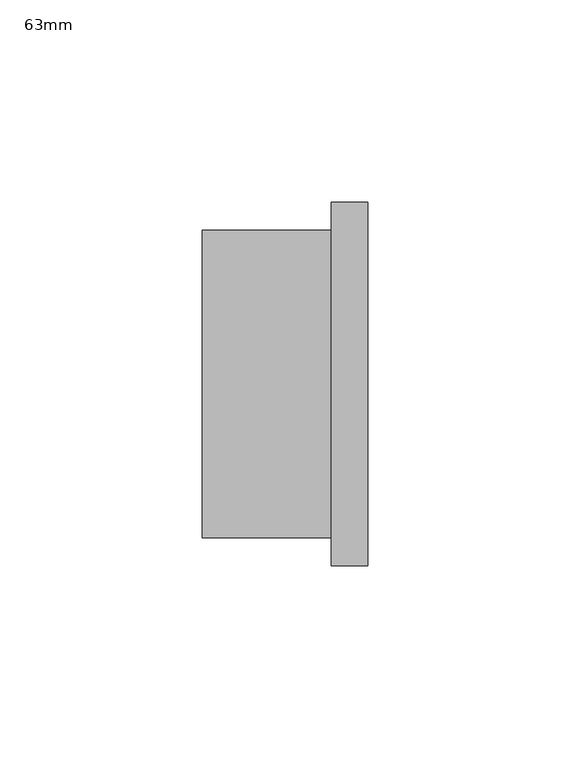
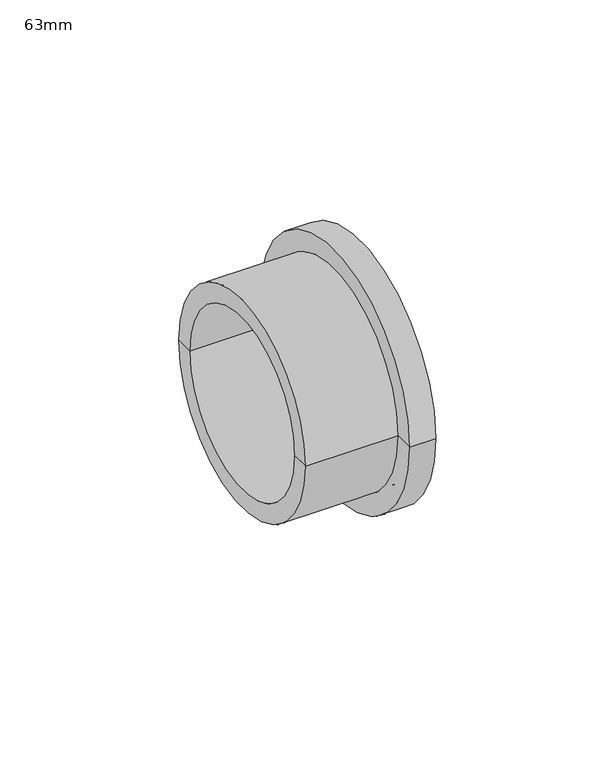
"""IFC4 building model written with IfcOpenShell, lengths in millimetres: pipe fitting geometry, Durapipe_PipeFitting_PVC_StubFlange : 63mm."""

from ifc_helpers import new_model, si_unit, frame, origin, place, context, project, spatial, polyline, circle_curve, source, transform, mapped, element, save
from ifc_brep_helpers import plane_surface, cylinder_surface, revolved_surface, advanced_brep


def pipe_fitting_63mm_d86aa782(model_context):
    return source(origin(), model_context, "Body", "AdvancedBrep", [
        advanced_brep(
        [(20.5, -45.0, 0.0), (20.5, 45.0, 0.0), (20.5, 40.25, 0.0), (20.5, -40.25, 0.0), (20.5, 25.0, 0.0), (20.5, -25.0, 0.0), (20.5, -36.5220779, 0.0), (20.5, 36.5220779, 0.0), (11.5, -45.0, 0.0), (11.5, 45.0, 0.0), (11.5, -38.0, 0.0), (11.5, 38.0, 0.0), (-20.5, -38.0, 0.0), (-20.5, 38.0, 0.0), (-20.5, -31.5, 0.0), (-20.5, 31.5, 0.0), (17.5, 25.0, 0.0), (17.5, -25.0, 0.0), (17.5, -31.5, 0.0), (17.5, 31.5, 0.0), (20.5, 37.7647186, 0.0), (19.0, 37.1433983, 0.0), (19.0, -37.1433983, 0.0), (20.5, -37.7647186, 0.0), (19.0, -38.386039, 0.0), (19.0, 38.386039, 0.0), (20.5, -39.0073593, 0.0), (20.5, 39.0073593, 0.0), (19.0, -39.6286797, 0.0), (19.0, 39.6286797, 0.0)],
        [
            (0, 1, circle_curve(frame((20.5, 0.0, 0.0), z_axis=(1.0, 0.0, 0.0), x_axis=(0.0, 1.0, 0.0)), 45.0)),
            (1, 2),
            (2, 3, circle_curve(frame((20.5, 0.0, 0.0), z_axis=(-1.0, 0.0, 0.0), x_axis=(0.0, -1.0, 0.0)), 40.25)),
            (3, 0),
            (4, 5, circle_curve(frame((20.5, 0.0, 0.0), z_axis=(-1.0, 0.0, 0.0), x_axis=(0.0, 1.0, 0.0)), 25.0)),
            (5, 6),
            (6, 7, circle_curve(frame((20.5, 0.0, 0.0), z_axis=(1.0, 0.0, 0.0), x_axis=(0.0, -1.0, 0.0)), 36.5220779)),
            (7, 4),
            (1, 0, circle_curve(frame((20.5, 0.0, 0.0), z_axis=(1.0, 0.0, 0.0), x_axis=(0.0, 1.0, 0.0)), 45.0)),
            (3, 2, circle_curve(frame((20.5, 0.0, 0.0), z_axis=(-1.0, 0.0, 0.0), x_axis=(0.0, 1.0, 0.0)), 40.25)),
            (5, 4, circle_curve(frame((20.5, 0.0, 0.0), z_axis=(-1.0, 0.0, 0.0), x_axis=(0.0, 1.0, 0.0)), 25.0)),
            (7, 6, circle_curve(frame((20.5, 0.0, 0.0), z_axis=(1.0, 0.0, 0.0), x_axis=(0.0, 1.0, 0.0)), 36.5220779)),
            (0, 8),
            (8, 9, circle_curve(frame((11.5, 0.0, 0.0), z_axis=(1.0, 0.0, 0.0), x_axis=(0.0, 1.0, 0.0)), 45.0)),
            (9, 1),
            (9, 8, circle_curve(frame((11.5, 0.0, 0.0), z_axis=(1.0, 0.0, 0.0), x_axis=(0.0, 1.0, 0.0)), 45.0)),
            (8, 10),
            (10, 11, circle_curve(frame((11.5, 0.0, 0.0), z_axis=(1.0, 0.0, 0.0), x_axis=(0.0, 1.0, 0.0)), 38.0)),
            (11, 9),
            (11, 10, circle_curve(frame((11.5, 0.0, 0.0), z_axis=(1.0, 0.0, 0.0), x_axis=(0.0, 1.0, 0.0)), 38.0)),
            (10, 12),
            (12, 13, circle_curve(frame((-20.5, 0.0, 0.0), z_axis=(1.0, 0.0, 0.0), x_axis=(0.0, 1.0, 0.0)), 38.0)),
            (13, 11),
            (13, 12, circle_curve(frame((-20.5, 0.0, 0.0), z_axis=(1.0, 0.0, 0.0), x_axis=(0.0, 1.0, 0.0)), 38.0)),
            (12, 14),
            (14, 15, circle_curve(frame((-20.5, 0.0, 0.0), z_axis=(1.0, 0.0, 0.0), x_axis=(0.0, 1.0, 0.0)), 31.5)),
            (15, 13),
            (15, 14, circle_curve(frame((-20.5, 0.0, 0.0), z_axis=(1.0, 0.0, 0.0), x_axis=(0.0, 1.0, 0.0)), 31.5)),
            (4, 16),
            (16, 17, circle_curve(frame((17.5, 0.0, 0.0), z_axis=(-1.0, 0.0, 0.0), x_axis=(0.0, 1.0, 0.0)), 25.0)),
            (17, 5),
            (17, 16, circle_curve(frame((17.5, 0.0, 0.0), z_axis=(-1.0, 0.0, 0.0), x_axis=(0.0, 1.0, 0.0)), 25.0)),
            (14, 18),
            (18, 19, circle_curve(frame((17.5, 0.0, 0.0), z_axis=(1.0, 0.0, 0.0), x_axis=(0.0, 1.0, 0.0)), 31.5)),
            (19, 15),
            (19, 18, circle_curve(frame((17.5, 0.0, 0.0), z_axis=(1.0, 0.0, 0.0), x_axis=(0.0, 1.0, 0.0)), 31.5)),
            (18, 17),
            (16, 19),
            (20, 21),
            (21, 22, circle_curve(frame((19.0, 0.0, 0.0), z_axis=(-1.0, 0.0, 0.0), x_axis=(0.0, -1.0, 0.0)), 37.1433983)),
            (22, 23),
            (23, 20, circle_curve(frame((20.5, 0.0, 0.0), z_axis=(1.0, 0.0, 0.0), x_axis=(0.0, -1.0, 0.0)), 37.7647186)),
            (23, 24),
            (24, 25, circle_curve(frame((19.0, 0.0, 0.0), z_axis=(1.0, 0.0, 0.0), x_axis=(0.0, -1.0, 0.0)), 38.386039)),
            (25, 20),
            (24, 26),
            (26, 27, circle_curve(frame((20.5, 0.0, 0.0), z_axis=(1.0, 0.0, 0.0), x_axis=(0.0, -1.0, 0.0)), 39.0073593)),
            (27, 25),
            (26, 28),
            (28, 29, circle_curve(frame((19.0, 0.0, 0.0), z_axis=(1.0, 0.0, 0.0), x_axis=(0.0, -1.0, 0.0)), 39.6286797)),
            (29, 27),
            (28, 3),
            (2, 29),
            (21, 7),
            (6, 22),
            (20, 23, circle_curve(frame((20.5, 0.0, 0.0), z_axis=(1.0, 0.0, 0.0), x_axis=(0.0, 1.0, 0.0)), 37.7647186)),
            (22, 21, circle_curve(frame((19.0, 0.0, 0.0), z_axis=(-1.0, 0.0, 0.0), x_axis=(0.0, 1.0, 0.0)), 37.1433983)),
            (25, 24, circle_curve(frame((19.0, 0.0, 0.0), z_axis=(1.0, 0.0, 0.0), x_axis=(0.0, 1.0, 0.0)), 38.386039)),
            (27, 26, circle_curve(frame((20.5, 0.0, 0.0), z_axis=(1.0, 0.0, 0.0), x_axis=(0.0, 1.0, 0.0)), 39.0073593)),
            (29, 28, circle_curve(frame((19.0, 0.0, 0.0), z_axis=(1.0, 0.0, 0.0), x_axis=(0.0, 1.0, 0.0)), 39.6286797)),
        ],
        [
            plane_surface(frame((20.5, 0.0, 0.0), z_axis=(1.0, 0.0, 0.0), x_axis=(0.0, 1.0, 0.0))),
            cylinder_surface(frame((23.6035546, 0.0, 0.0), z_axis=(-1.0, 0.0, 0.0), x_axis=(0.0, 1.0, 0.0)), 45.0),
            plane_surface(frame((11.5, 0.0, 0.0), z_axis=(-1.0, 0.0, 0.0), x_axis=(0.0, 1.0, 0.0))),
            cylinder_surface(frame((23.6035546, 0.0, 0.0), z_axis=(-1.0, 0.0, 0.0), x_axis=(0.0, 1.0, 0.0)), 38.0),
            plane_surface(frame((-20.5, 0.0, 0.0), z_axis=(-1.0, 0.0, 0.0), x_axis=(0.0, 1.0, 0.0))),
            revolved_surface(polyline([(17.5, 25.0, 0.0), (20.5, 25.0, 0.0)]), (23.6035546, 0.0, 0.0), (-1.0, 0.0, 0.0)),
            revolved_surface(polyline([(-20.5, 31.5, 0.0), (17.5, 31.5, 0.0)]), (-22.3250714, 0.0, 0.0), (-1.0, 0.0, 0.0)),
            plane_surface(frame((17.5, 0.0, 0.0), z_axis=(-1.0, 0.0, 0.0), x_axis=(0.0, 1.0, 0.0))),
            revolved_surface(polyline([(20.5, -37.7647186, 0.0), (19.0, -37.1433983, 0.0)]), (20.5, 0.0, 0.0), (1.0, 0.0, 0.0)),
            revolved_surface(polyline([(19.0, -38.386039, 0.0), (20.5, -37.7647186, 0.0)]), (20.5, 0.0, 0.0), (1.0, 0.0, 0.0)),
            revolved_surface(polyline([(20.5, -39.0073593, 0.0), (19.0, -38.386039, 0.0)]), (20.5, 0.0, 0.0), (1.0, 0.0, 0.0)),
            revolved_surface(polyline([(19.0, -39.6286797, 0.0), (20.5, -39.0073593, 0.0)]), (20.5, 0.0, 0.0), (1.0, 0.0, 0.0)),
            revolved_surface(polyline([(20.5, -40.25, 0.0), (19.0, -39.6286797, 0.0)]), (20.5, 0.0, 0.0), (1.0, 0.0, 0.0)),
            revolved_surface(polyline([(19.0, -37.1433983, 0.0), (20.5, -36.5220779, 0.0)]), (20.5, 0.0, 0.0), (1.0, 0.0, 0.0)),
            revolved_surface(polyline([(20.5, 37.7647186, 0.0), (19.0, 37.1433983, 0.0)]), (20.5, 0.0, 0.0), (1.0, 0.0, 0.0)),
            revolved_surface(polyline([(19.0, 38.386039, 0.0), (20.5, 37.7647186, 0.0)]), (20.5, 0.0, 0.0), (1.0, 0.0, 0.0)),
            revolved_surface(polyline([(20.5, 39.0073593, 0.0), (19.0, 38.386039, 0.0)]), (20.5, 0.0, 0.0), (1.0, 0.0, 0.0)),
            revolved_surface(polyline([(19.0, 39.6286797, 0.0), (20.5, 39.0073593, 0.0)]), (20.5, 0.0, 0.0), (1.0, 0.0, 0.0)),
            revolved_surface(polyline([(20.5, 40.25, 0.0), (19.0, 39.6286797, 0.0)]), (20.5, 0.0, 0.0), (1.0, 0.0, 0.0)),
            revolved_surface(polyline([(19.0, 37.1433983, 0.0), (20.5, 36.5220779, 0.0)]), (20.5, 0.0, 0.0), (1.0, 0.0, 0.0)),
        ],
        [
            (0, [[1, 2, 3, 4]]),
            (0, [[5, 6, 7, 8]]),
            (0, [[9, -4, 10, -2]]),
            (0, [[11, -8, 12, -6]]),
            (1, [[-1, 13, 14, 15]]),
            (1, [[-9, -15, 16, -13]]),
            (2, [[-14, 17, 18, 19]]),
            (2, [[-16, -19, 20, -17]]),
            (3, [[-18, 21, 22, 23]]),
            (3, [[-20, -23, 24, -21]]),
            (4, [[-22, 25, 26, 27]]),
            (4, [[-24, -27, 28, -25]]),
            (5, [[-5, 29, 30, 31]]),
            (5, [[-11, -31, 32, -29]]),
            (6, [[33, 34, 35, -26]]),
            (6, [[-33, -28, -35, 36]]),
            (7, [[-34, 37, -30, 38]]),
            (7, [[-36, -38, -32, -37]]),
            (8, [[39, 40, 41, 42]]),
            (9, [[-42, 43, 44, 45]]),
            (10, [[-44, 46, 47, 48]]),
            (11, [[-47, 49, 50, 51]]),
            (12, [[-50, 52, -3, 53]]),
            (13, [[-40, 54, -7, 55]]),
            (14, [[-39, 56, -41, 57]]),
            (15, [[-45, 58, -43, -56]]),
            (16, [[-48, 59, -46, -58]]),
            (17, [[-51, 60, -49, -59]]),
            (18, [[-53, -10, -52, -60]]),
            (19, [[-54, -57, -55, -12]]),
        ],
    ),
    ])


if __name__ == "__main__":
    model = new_model("IFC4")
    model_context = context("Model", 3, world=origin())
    ifc_project = project(units=[si_unit("LENGTHUNIT", "METRE", prefix="MILLI")], contexts=[model_context])
    site = spatial("IfcSite", under=ifc_project)
    building = spatial("IfcBuilding", under=site)
    placement = place(None, origin())
    pipe_fitting_63mm_shape = pipe_fitting_63mm_d86aa782(model_context)
    element("IfcPipeFitting", 1, ObjectType="Durapipe_PipeFitting_PVC_StubFlange : 63mm", at=placement, inside=building, context=model_context, shape_type="MappedRepresentation", body=[
        mapped(pipe_fitting_63mm_shape, transform((0.0, 0.0, 0.0), x_axis=(1.0, 0.0, 0.0), y_axis=(0.0, 1.0, 0.0), z_axis=(0.0, 0.0, 1.0))),
    ])
    save(model, "model.ifc")
